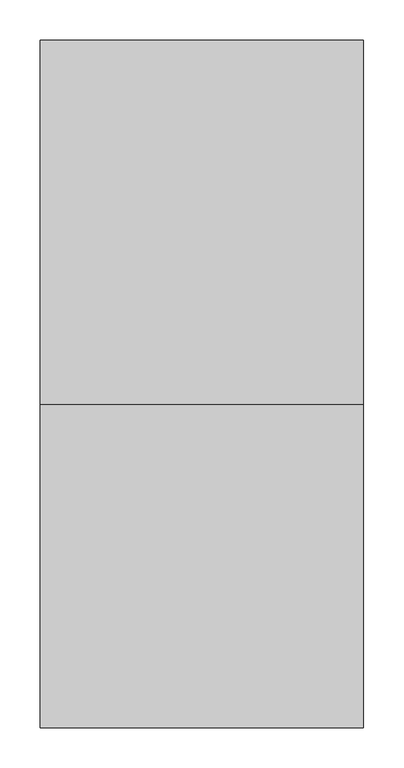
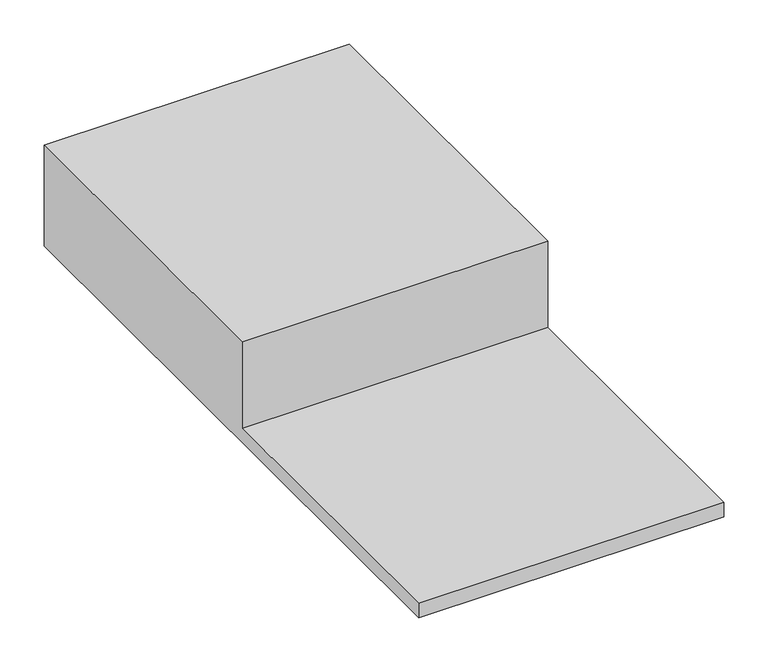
"""IFC4 building model written with IfcOpenShell, lengths in millimetres: proxy geometry, bossages appuis C0b : bossages appuis."""

import ifcopenshell
import ifcopenshell.guid

model = None  # the IFC model being written
_history = None  # IfcOwnerHistory: only IFC2X3 demands one
_inside = {}  # id of a spatial element -> (the spatial element, [elements in it])
_under = {}  # id of a project, library or spatial element -> (it, [spatial elements below it])
_declared = {}  # id of a project -> (the project, [libraries it declares])
_typed = {}  # id of a type object -> (the type object, [elements of that type])
_made_of = {}  # id of a material, layer set ... -> (it, [elements and type objects made of it])


def new_model(schema):
    """Start an empty IFC model of exactly this schema.

    Asked for "IFC4X3", IfcOpenShell would pick the latest addendum, in which some entities
    have other attributes; the version numbers below select the first issue.
    IFC2X3 requires an IfcOwnerHistory on every rooted entity: one is made here for all.
    """
    global model, _history
    if schema == "IFC4X3":
        model = ifcopenshell.file(schema_version=(4, 3, 0, 0))
    else:
        model = ifcopenshell.file(schema=schema)
    _inside.clear()
    _under.clear()
    _declared.clear()
    _typed.clear()
    _made_of.clear()
    _history = None
    if model.schema == "IFC2X3":
        org = make("IfcOrganization", Name="unknown")
        user = make(
            "IfcPersonAndOrganization",
            ThePerson=make("IfcPerson", FamilyName="unknown"),
            TheOrganization=org,
        )
        app = make(
            "IfcApplication",
            ApplicationDeveloper=org,
            Version="unknown",
            ApplicationFullName="unknown",
            ApplicationIdentifier="unknown",
        )
        _history = make(
            "IfcOwnerHistory",
            OwningUser=user,
            OwningApplication=app,
            ChangeAction="ADDED",
            CreationDate=0,
        )
    return model


def make(cls, **values):
    """One entity of the class cls with the attributes given. An attribute that is None is left unset."""
    return model.create_entity(
        cls, **{name: value for name, value in values.items() if value is not None}
    )


def rooted(cls, **values):
    """An entity with a GlobalId (a new one), such as an element, a storey or a relation."""
    return make(cls, GlobalId=ifcopenshell.guid.new(), OwnerHistory=_history, **values)


def si_unit(unit_type, name, prefix=None):
    """IfcSIUnit, for example si_unit("LENGTHUNIT", "METRE", prefix="MILLI")."""
    return make("IfcSIUnit", UnitType=unit_type, Prefix=prefix, Name=name)


def assignment(units):
    """IfcUnitAssignment: the units of a project."""
    return None if units is None else make("IfcUnitAssignment", Units=units)


def point(xyz):
    """IfcCartesianPoint."""
    return None if xyz is None else make("IfcCartesianPoint", Coordinates=xyz)


def direction(xyz):
    """IfcDirection."""
    return None if xyz is None else make("IfcDirection", DirectionRatios=xyz)


def frame(location, z_axis=None, x_axis=None):
    """IfcAxis2Placement3D, a coordinate frame: its origin and axes. An axis left out is left unset."""
    return make(
        "IfcAxis2Placement3D",
        Location=point(location),
        Axis=direction(z_axis),
        RefDirection=direction(x_axis),
    )


def origin():
    """The frame at (0, 0, 0) with its axes left unset."""
    return frame((0.0, 0.0, 0.0))


def place(relative_to, where):
    """IfcLocalPlacement: puts the frame where relative to a parent placement (None: the world)."""
    return make(
        "IfcLocalPlacement", PlacementRelTo=relative_to, RelativePlacement=where
    )


def context(
    kind, dimensions, precision=None, world=None, true_north=None, identifier=None
):
    """IfcGeometricRepresentationContext, for example the 3D "Model" context."""
    return make(
        "IfcGeometricRepresentationContext",
        ContextIdentifier=identifier,
        ContextType=kind,
        CoordinateSpaceDimension=dimensions,
        Precision=precision,
        WorldCoordinateSystem=world,
        TrueNorth=true_north,
    )


def project(units=None, contexts=None):
    """IfcProject with its units and contexts."""
    return rooted(
        "IfcProject",
        Name="project",
        RepresentationContexts=contexts,
        UnitsInContext=assignment(units),
    )


def spatial(cls, under=None, at=None, **own):
    """A site, building, storey or space (cls), placed at a placement, below another one or the project."""
    s = rooted(cls, ObjectPlacement=at, **own)
    if under is not None:
        _under.setdefault(under.id(), (under, []))[1].append(s)
    return s


def polyline(points):
    """IfcPolyline through the points."""
    return make("IfcPolyline", Points=[point(p) for p in points])


def outline(outer, holes=None, kind="AREA"):
    """IfcArbitraryClosedProfileDef: a profile drawn as a closed curve; with holes, ...WithVoids."""
    if holes is None:
        return make("IfcArbitraryClosedProfileDef", ProfileType=kind, OuterCurve=outer)
    return make(
        "IfcArbitraryProfileDefWithVoids",
        ProfileType=kind,
        OuterCurve=outer,
        InnerCurves=holes,
    )


def extrude(swept, where, along, depth):
    """IfcExtrudedAreaSolid: the profile swept, set in the frame where, extruded along a direction by depth."""
    return make(
        "IfcExtrudedAreaSolid",
        SweptArea=swept,
        Position=where,
        ExtrudedDirection=direction(along),
        Depth=depth,
    )


def shape(context_of_items, identifier, shape_type, items):
    """IfcShapeRepresentation: the items that make up one representation, for example the "Body"."""
    return make(
        "IfcShapeRepresentation",
        ContextOfItems=context_of_items,
        RepresentationIdentifier=identifier,
        RepresentationType=shape_type,
        Items=items,
    )


def source(mapping_origin, context_of_items, identifier, shape_type, items):
    """IfcRepresentationMap: a shape defined once, which mapped items show again and again."""
    return make(
        "IfcRepresentationMap",
        MappingOrigin=mapping_origin,
        MappedRepresentation=shape(context_of_items, identifier, shape_type, items),
    )


def transform(
    local_origin,
    x_axis=None,
    y_axis=None,
    z_axis=None,
    scale=None,
    scale2=None,
    scale3=None,
    uniform=True,
):
    """IfcCartesianTransformationOperator3D, or its non-uniform kind. x_axis, y_axis, z_axis: its Axis1, 2, 3."""
    if uniform:
        return make(
            "IfcCartesianTransformationOperator3D",
            Axis1=direction(x_axis),
            Axis2=direction(y_axis),
            LocalOrigin=point(local_origin),
            Scale=scale,
            Axis3=direction(z_axis),
        )
    return make(
        "IfcCartesianTransformationOperator3DnonUniform",
        Axis1=direction(x_axis),
        Axis2=direction(y_axis),
        LocalOrigin=point(local_origin),
        Scale=scale,
        Axis3=direction(z_axis),
        Scale2=scale2,
        Scale3=scale3,
    )


def mapped(mapping_source, mapping_target):
    """IfcMappedItem: shows the shape of a source again, moved by a transform."""
    return make(
        "IfcMappedItem", MappingSource=mapping_source, MappingTarget=mapping_target
    )


def made_of(thing, what):
    """Note that an element or type object is made of a material, layer set ...; save() writes the relation."""
    if what is not None:
        _made_of.setdefault(what.id(), (what, []))[1].append(thing)
    return thing


def element(
    cls,
    number,
    at=None,
    inside=None,
    cuts=None,
    type_object=None,
    material=None,
    context=None,
    identifier="Body",
    shape_type=None,
    held_by="IfcProductDefinitionShape",
    body=None,
    shapes=None,
    **own,
):
    """One element of the class cls, such as IfcWall. Its Tag is "e" and its number.

    at: its placement. inside: the storey or other place that contains it. cuts: it is an
    opening in that element (IfcRelVoidsElement). A single representation is given by context,
    identifier, shape_type and body (its items); several are given by shapes. held_by: the class
    of the entity that holds the representations. save() writes the other relations.
    """
    e = rooted(cls, Tag="e%d" % number, ObjectPlacement=at, **own)
    if body is not None:
        shapes = [shape(context, identifier, shape_type, body)]
    if shapes is not None:
        e.Representation = make(held_by, Representations=shapes)
    if inside is not None:
        _inside.setdefault(inside.id(), (inside, []))[1].append(e)
    if cuts is not None:
        rooted(
            "IfcRelVoidsElement", RelatingBuildingElement=cuts, RelatedOpeningElement=e
        )
    if type_object is not None:
        _typed.setdefault(type_object.id(), (type_object, []))[1].append(e)
    return made_of(e, material)


def aggregate(whole, parts):
    """IfcRelAggregates: a whole, such as a stair, and the parts it consists of."""
    return rooted("IfcRelAggregates", RelatingObject=whole, RelatedObjects=parts)


def save(model, path):
    """Write the relations noted so far, then the file.

    IfcRelAggregates (storeys below a building ...), IfcRelContainedInSpatialStructure (elements
    in a storey), IfcRelDefinesByType, IfcRelAssociatesMaterial and IfcRelDeclares: one each for
    every whole, place, type object, material and project.
    """
    for whole, parts in _under.values():
        aggregate(whole, parts)
    for where, things in _inside.values():
        rooted(
            "IfcRelContainedInSpatialStructure",
            RelatedElements=things,
            RelatingStructure=where,
        )
    for kind, things in _typed.values():
        rooted("IfcRelDefinesByType", RelatedObjects=things, RelatingType=kind)
    for what, things in _made_of.values():
        rooted("IfcRelAssociatesMaterial", RelatedObjects=things, RelatingMaterial=what)
    for by, libraries in _declared.values():
        rooted("IfcRelDeclares", RelatingContext=by, RelatedDefinitions=libraries)
    model.write(path)


def generic_models_549524f3(model_context):
    return source(origin(), model_context, "Body", "SweptSolid", [
        extrude(outline(polyline([(1975.0, 4230.0), (1975.0, 4090.0), (1125.0, 4090.0), (1125.0, 4110.0), (1525.0, 4110.0), (1525.0, 4230.0), (1975.0, 4230.0)])), frame((-6550.0, 0.0, 0.0), z_axis=(1.0, 0.0, 0.0), x_axis=(0.0, 1.0, 0.0)), (0.0, 0.0, 1.0), 400.0),
    ])


if __name__ == "__main__":
    model = new_model("IFC4")
    model_context = context("Model", 3, world=origin())
    ifc_project = project(units=[si_unit("LENGTHUNIT", "METRE", prefix="MILLI")], contexts=[model_context])
    site = spatial("IfcSite", under=ifc_project)
    building = spatial("IfcBuilding", under=site)
    placement = place(None, origin())
    generic_models_shape = generic_models_549524f3(model_context)
    element("IfcBuildingElementProxy", 1, Name="bossages appuis C0b : bossages appuis", ObjectType="bossages appuis C0b : bossages appuis", at=placement, inside=building, context=model_context, shape_type="MappedRepresentation", body=[
        mapped(generic_models_shape, transform((0.0, 0.0, 0.0), x_axis=(1.0, 0.0, 0.0), y_axis=(0.0, 1.0, 0.0), z_axis=(0.0, 0.0, 1.0))),
    ])
    save(model, "model.ifc")
